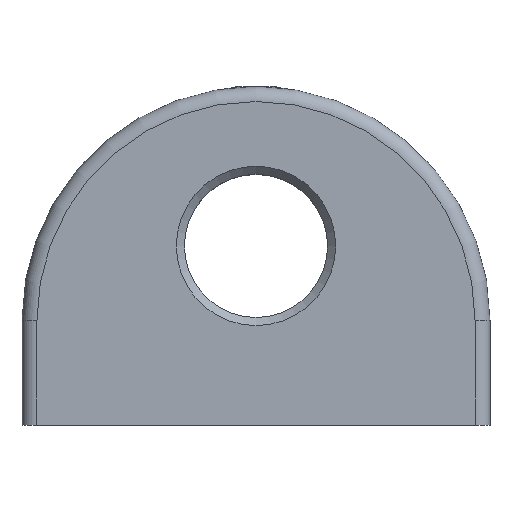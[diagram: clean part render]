
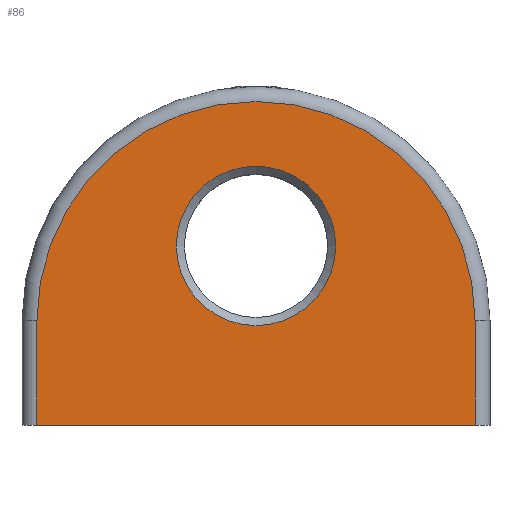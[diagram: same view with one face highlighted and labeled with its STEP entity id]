
A CAD part, top view. The second image highlights one B-rep face of the part: STEP entity #86.
In plain terms, the highlighted planar face has unit normal (0, 0, 1).
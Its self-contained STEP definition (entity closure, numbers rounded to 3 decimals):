
#86 = ADVANCED_FACE( '', ( #149, #150 ), #151, .F. );
#149 = FACE_BOUND( '', #258, .T. );
#150 = FACE_OUTER_BOUND( '', #259, .T. );
#151 = PLANE( '', #260 );
#258 = EDGE_LOOP( '', ( #420 ) );
#259 = EDGE_LOOP( '', ( #421, #422, #423, #424 ) );
#260 = AXIS2_PLACEMENT_3D( '', #425, #426, #427 );
#420 = ORIENTED_EDGE( '', *, *, #633, .T. );
#421 = ORIENTED_EDGE( '', *, *, #663, .F. );
#422 = ORIENTED_EDGE( '', *, *, #640, .F. );
#423 = ORIENTED_EDGE( '', *, *, #664, .T. );
#424 = ORIENTED_EDGE( '', *, *, #656, .T. );
#425 = CARTESIAN_POINT( '', ( -22., 10.5, 7. ) );
#426 = DIRECTION( '', ( 0., 0., -1. ) );
#427 = DIRECTION( '', ( -1., 0., 0. ) );
#633 = EDGE_CURVE( '', #720, #720, #721, .T. );
#640 = EDGE_CURVE( '', #733, #735, #736, .T. );
#656 = EDGE_CURVE( '', #765, #763, #766, .T. );
#663 = EDGE_CURVE( '', #735, #763, #774, .T. );
#664 = EDGE_CURVE( '', #733, #765, #775, .T. );
#720 = VERTEX_POINT( '', #982 );
#721 = CIRCLE( '', #983, 8. );
#733 = VERTEX_POINT( '', #995 );
#735 = VERTEX_POINT( '', #997 );
#736 = CIRCLE( '', #998, 22. );
#763 = VERTEX_POINT( '', #1034 );
#765 = VERTEX_POINT( '', #1036 );
#766 = LINE( '', #1037, #1038 );
#774 = LINE( '', #1050, #1051 );
#775 = LINE( '', #1052, #1053 );
#982 = CARTESIAN_POINT( '', ( -8., 18., 7. ) );
#983 = AXIS2_PLACEMENT_3D( '', #1163, #1164, #1165 );
#995 = CARTESIAN_POINT( '', ( -22., 10.5, 7. ) );
#997 = CARTESIAN_POINT( '', ( 22., 10.5, 7. ) );
#998 = AXIS2_PLACEMENT_3D( '', #1184, #1185, #1186 );
#1034 = CARTESIAN_POINT( '', ( 22., 0., 7. ) );
#1036 = CARTESIAN_POINT( '', ( -22., 0., 7. ) );
#1037 = CARTESIAN_POINT( '', ( -22., 0., 7. ) );
#1038 = VECTOR( '', #1214, 1000. );
#1050 = CARTESIAN_POINT( '', ( 22., 10.5, 7. ) );
#1051 = VECTOR( '', #1225, 1000. );
#1052 = CARTESIAN_POINT( '', ( -22., 10.5, 7. ) );
#1053 = VECTOR( '', #1226, 1000. );
#1163 = CARTESIAN_POINT( '', ( 0., 18., 7. ) );
#1164 = DIRECTION( '', ( 0., 0., -1. ) );
#1165 = DIRECTION( '', ( -1., 0., 0. ) );
#1184 = CARTESIAN_POINT( '', ( 0., 10.5, 7. ) );
#1185 = DIRECTION( '', ( 0., 0., -1. ) );
#1186 = DIRECTION( '', ( -1., 0., 0. ) );
#1214 = DIRECTION( '', ( 1., 0., 0. ) );
#1225 = DIRECTION( '', ( 0., -1., 0. ) );
#1226 = DIRECTION( '', ( 0., -1., 0. ) );
